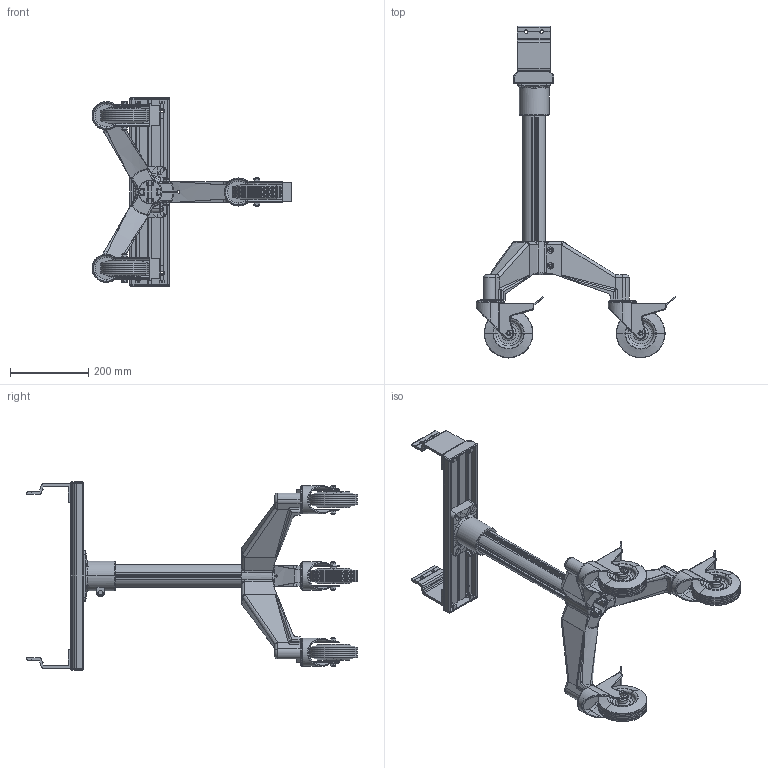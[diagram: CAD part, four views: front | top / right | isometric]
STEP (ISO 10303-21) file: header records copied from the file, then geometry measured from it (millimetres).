
FILE_DESCRIPTION (( 'STEP AP214' ), '1' );
FILE_NAME ('F2-1500-P3R.STEP', '2010-03-11T09:04:57', ( '.' ), ( '' ), 'SwSTEP 2.0', 'SolidWorks 2009', '' );
FILE_SCHEMA (( 'AUTOMOTIVE_DESIGN' ));
Length unit declared in the file: millimetre
Products named in the file (1): F2-1500-P3R
Bounding box: 511.22 x 848.88 x 482 mm (x, y, z)
Surface area: 1027584.9 mm2 (no closed solid volume)
Topology: 0 solids, 16 shells, 1285 faces, 3580 edges, 2299 vertices
Faces by surface type: plane 497, cylinder 440, torus 222, bspline 72, cone 44, sphere 10
Entity records: 72486 total; most frequent: CARTESIAN_POINT 26025, DIRECTION 6932, ORIENTED_EDGE 6394, EDGE_CURVE 3563, AXIS2_PLACEMENT_3D 2566, VERTEX_POINT 2299, VECTOR 1800, LINE 1800
